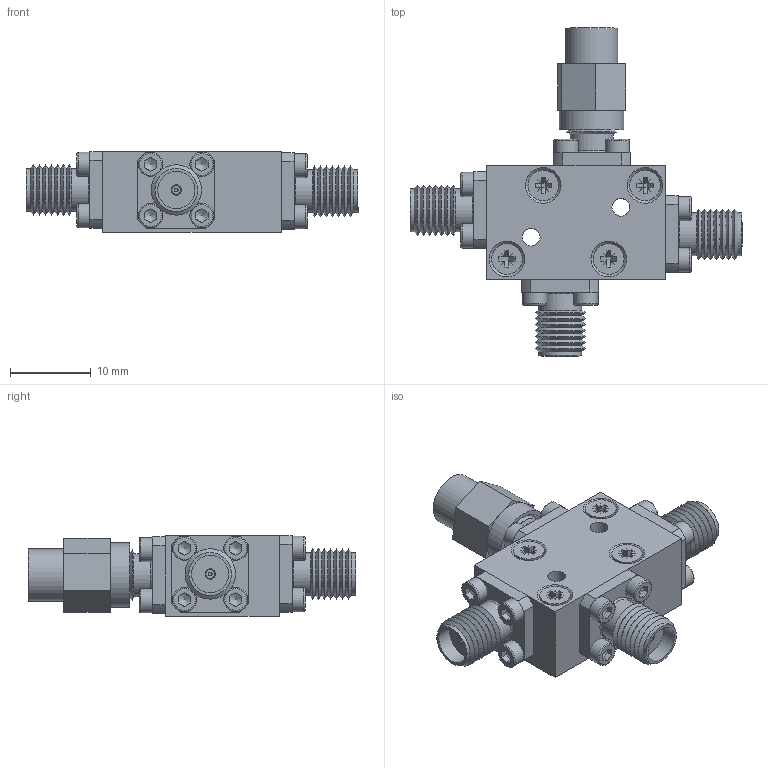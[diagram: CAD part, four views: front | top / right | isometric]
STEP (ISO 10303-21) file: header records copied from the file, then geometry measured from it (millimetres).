
FILE_DESCRIPTION(/* description */ ('Unknown'),/* implementation_level */ '2;1');
FILE_NAME(/* name */ 'DETI_MICROWAVE_DIRECTIONAL_COUPLER_011058_STEP',/* time_stamp */ '2021-06-08T14:42:10+02:00',/* author */ ('ALG'),/* organization */ ('DETI'),/* preprocessor_version */ 'ST-DEVELOPER v16.7',/* originating_system */ 'Solid Edge',/* authorisation */ 'Unknown');
FILE_SCHEMA (('AUTOMOTIVE_DESIGN {1 0 10303 214 3 1 1}'));
Length unit declared in the file: millimetre
Products named in the file (1): coupleur 10dB2
Bounding box: 41.1 x 40.6 x 10 mm (x, y, z)
Volume: 4812.6 mm3; surface area: 3974.8 mm2
Topology: 1 solids, 42 shells, 579 faces, 1377 edges, 909 vertices
Faces by surface type: plane 353, cylinder 113, cone 89, torus 24
Full cylindrical faces by diameter (mm): 0.47 x4, 0.8 x1, 1.1 x4, 1.27 x7, 1.6 x16, 1.8 x16, 2 x4, 2.2 x8, 3 x16, 3.8 x4, 4.1 x4, 4.6 x3, 5.3 x7, 6.5 x1, 6.8 x1, 8 x1
Entity records: 18850 total; most frequent: CARTESIAN_POINT 2766, DIRECTION 2422, ORIENTED_EDGE 2094, EDGE_CURVE 1047, FACE_BOUND 900, AXIS2_PLACEMENT_3D 897, EDGE_LOOP 868, VERTEX_POINT 821
